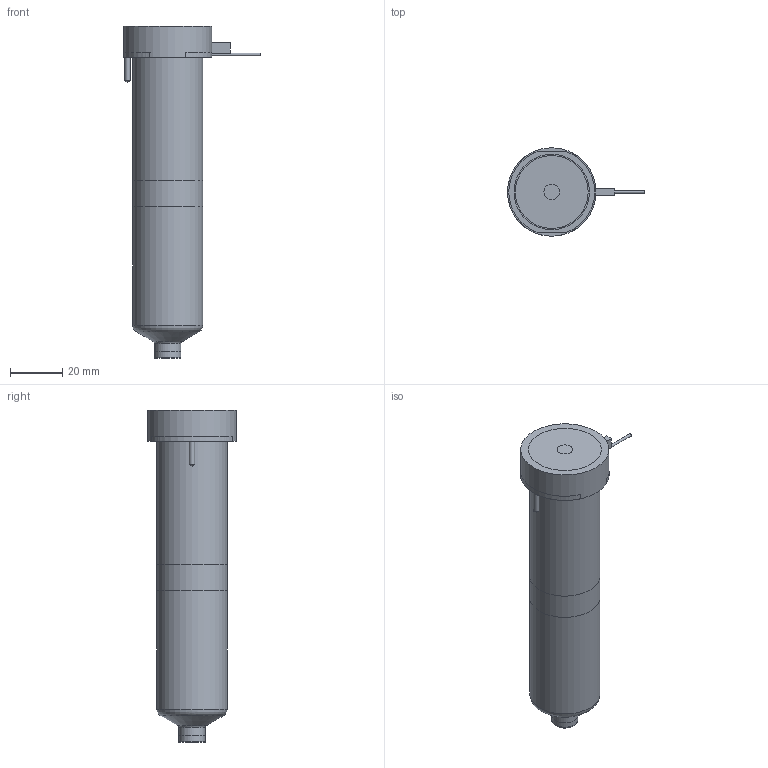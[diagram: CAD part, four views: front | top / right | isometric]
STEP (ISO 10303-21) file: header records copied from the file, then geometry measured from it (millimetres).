
FILE_DESCRIPTION(/* description */ (''),/* implementation_level */ '2;1');
FILE_NAME(/* name */ 'BXTBN-BXIBN-BXOBN13115_250C_b',/* time_stamp */ '2007-01-18T09:57:51+13:00',/* author */ (''),/* organization */ (''),/* preprocessor_version */ 'ST-DEVELOPER v9',/* originating_system */ 'UGS - NX 4.0',/* authorisation */ '');
FILE_SCHEMA (('CONFIG_CONTROL_DESIGN'));
Length unit declared in the file: millimetre
Products named in the file (1): BXTBN-BXIBN-BXOBN13115_250C_b
Bounding box: 52.65 x 34 x 127.58 mm (x, y, z)
Volume: 129902.6 mm3; surface area: 25967 mm2
Topology: 6 solids, 6 shells, 73 faces, 141 edges, 91 vertices
Faces by surface type: plane 34, cylinder 23, cone 8, torus 7, bspline 1
Full cylindrical faces by diameter (mm): 0.9 x1, 1 x3, 2 x2, 6 x1, 9.61 x1, 10.01 x2, 12.6 x1, 22.2 x1, 27 x2, 34 x1
Entity records: 1806 total; most frequent: CARTESIAN_POINT 357, DIRECTION 304, ORIENTED_EDGE 210, AXIS2_PLACEMENT_3D 134, EDGE_LOOP 112, EDGE_CURVE 105, VERTEX_POINT 84, ADVANCED_FACE 73
